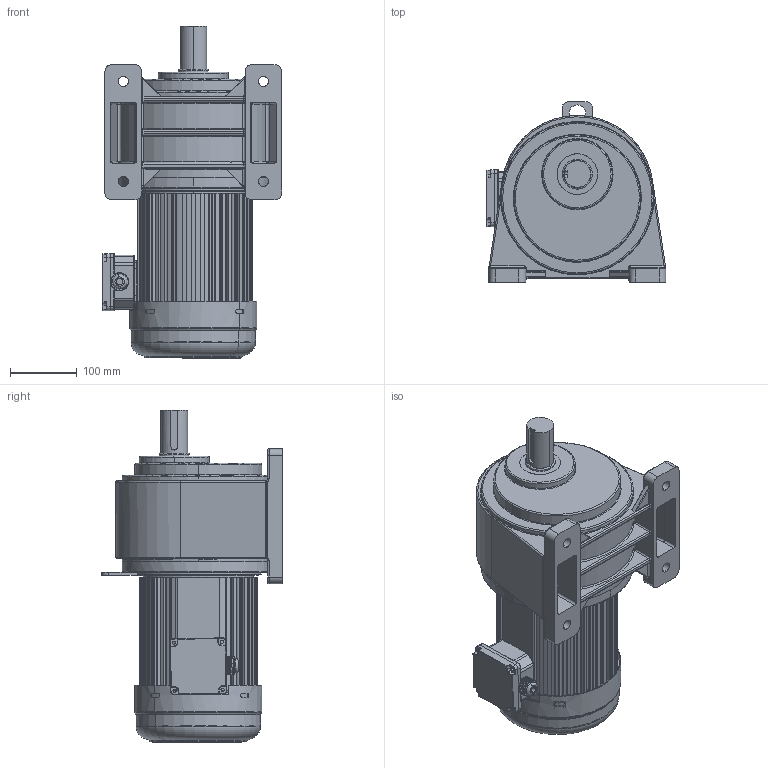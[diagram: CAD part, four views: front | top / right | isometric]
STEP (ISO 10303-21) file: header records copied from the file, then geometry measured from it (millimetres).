
FILE_DESCRIPTION (( 'STEP AP203' ), '1' );
FILE_NAME ('1500W饜5#拏宒.STEP', '2020-04-13T08:58:45', ( 'china' ), ( 'china' ), 'SwSTEP 2.0', 'SolidWorks 2019', '' );
FILE_SCHEMA (( 'CONFIG_CONTROL_DESIGN' ));
Length unit declared in the file: millimetre
Products named in the file (10): 1500W綴傷裔; 瑞欶; 蜊輛綴諉盄碟釱3; xiangti-5w; 諉芛; 怀堤粣; 蜊輛綴諉盄碟裔3; 5-1500w2200wxianggai; 1500W饜5#拏宒; 1500W儂褲
Assembly tree (9 placements, depth 2):
  1500W饜5#拏宒
    xiangti-5w
    怀堤粣
    5-1500w2200wxianggai
    1500W儂褲
    1500W綴傷裔
    瑞欶
    蜊輛綴諉盄碟釱3
    諉芛
    蜊輛綴諉盄碟裔3
Bounding box: 269.01 x 271 x 497.95 mm (x, y, z)
Volume: 3623420.6 mm3; surface area: 1257037.2 mm2
Topology: 9 solids, 20 shells, 3604 faces, 9505 edges, 5961 vertices
Faces by surface type: plane 1324, cylinder 1228, bspline 760, torus 169, cone 123
Entity records: 157789 total; most frequent: CARTESIAN_POINT 72044, ORIENTED_EDGE 18856, DIRECTION 16261, EDGE_CURVE 9428, VERTEX_POINT 5960, AXIS2_PLACEMENT_3D 5785, VECTOR 4691, LINE 4691
